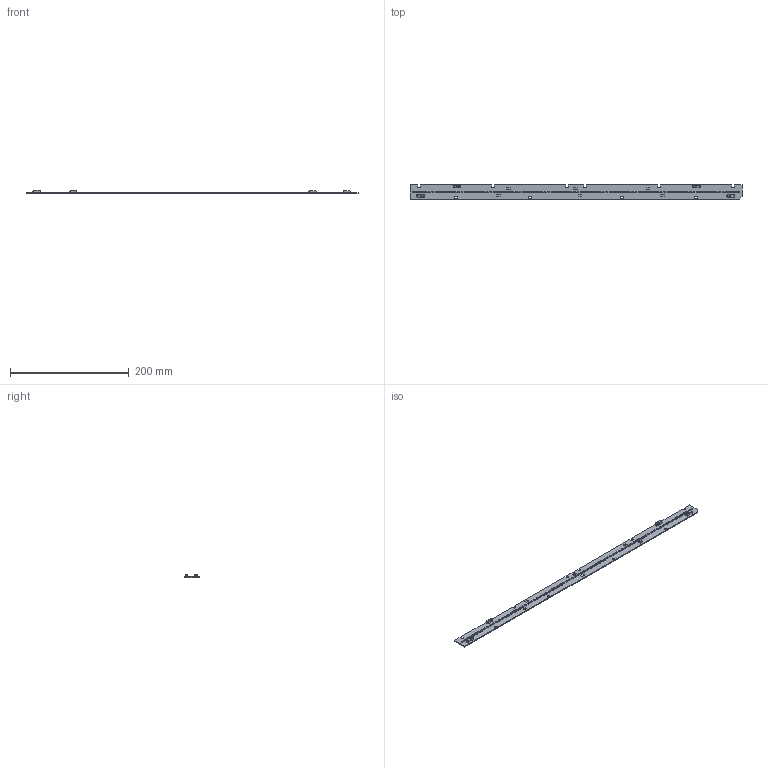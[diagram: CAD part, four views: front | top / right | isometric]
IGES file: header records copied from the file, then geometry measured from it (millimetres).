
Start section: SolidWorks IGES file using analytic representation for surfaces
Global section: file name: C:\Users\vuorinen_kari\Desktop\prj\LED_kosketussuojaus\led_module iC562.IGS; native system: SolidWorks 2014; preprocessor: SolidWorks 2014; author: vuorinen_kari; date: 170817.124132; units: millimetre
Bounding box: 560 x 24 x 5.95 mm (x, y, z)
Surface area: 36456.2 mm2 (no closed solid volume)
Topology: 0 solids, 0 shells, 5125 faces, 31086 edges, 31086 vertices
Faces by surface type: bspline 4047, revolution 1078
